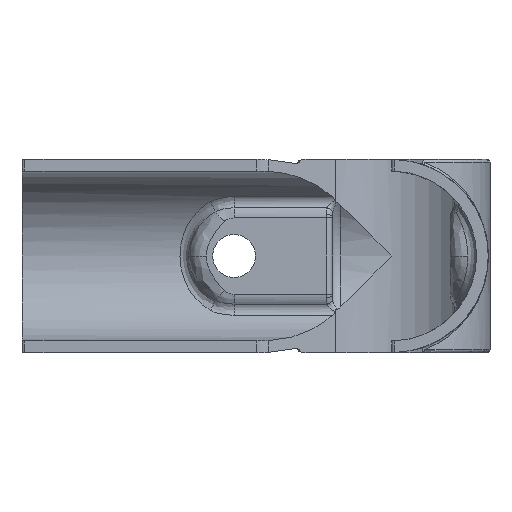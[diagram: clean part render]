
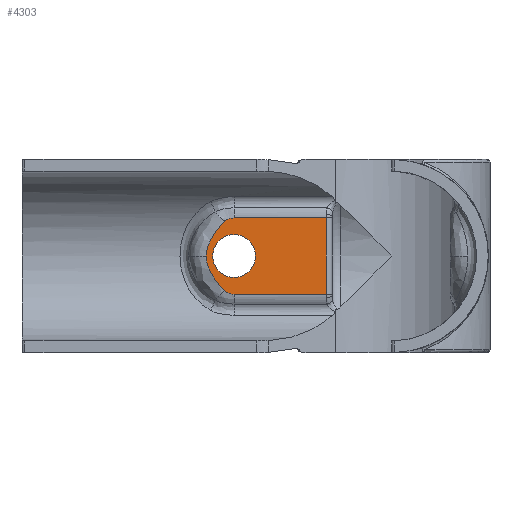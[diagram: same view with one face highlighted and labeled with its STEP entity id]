
A CAD part, front view. The second image highlights one B-rep face of the part: STEP entity #4303.
In plain terms, the highlighted planar face has unit normal (0, -1, 0).
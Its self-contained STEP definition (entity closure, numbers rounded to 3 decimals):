
#52 = LINE ( 'NONE', #3856, #2515 ) ;
#112 = EDGE_LOOP ( 'NONE', ( #4121, #5140 ) ) ;
#114 = CARTESIAN_POINT ( 'NONE',  ( -30.966, 10., 13.757 ) ) ;
#356 = DIRECTION ( 'NONE',  ( 1., 0., 0. ) ) ;
#415 = EDGE_CURVE ( 'NONE', #3989, #980, #4751, .T. ) ;
#418 = EDGE_LOOP ( 'NONE', ( #4894, #3606, #6146, #5375, #6086, #656, #4976 ) ) ;
#515 = CARTESIAN_POINT ( 'NONE',  ( -31.322, 10., 18.448 ) ) ;
#543 = CARTESIAN_POINT ( 'NONE',  ( -27.559, 10., 22.967 ) ) ;
#656 = ORIENTED_EDGE ( 'NONE', *, *, #3222, .T. ) ;
#694 = EDGE_CURVE ( 'NONE', #1400, #2501, #3590, .T. ) ;
#881 = CARTESIAN_POINT ( 'NONE',  ( -28.336, 10., 22.668 ) ) ;
#883 = CARTESIAN_POINT ( 'NONE',  ( -29.043, 10., 22.037 ) ) ;
#980 = VERTEX_POINT ( 'NONE', #3733 ) ;
#1105 = B_SPLINE_CURVE_WITH_KNOTS ( 'NONE', 3,
 ( #3831, #3356, #543, #1543, #4819, #881, #4317, #1397, #4977, #1878 ),
 .UNSPECIFIED., .F., .F.,
 ( 4, 2, 2, 2, 4 ),
 ( 0., 0.001, 0.001, 0.002, 0.002 ),
 .UNSPECIFIED. ) ;
#1124 = CARTESIAN_POINT ( 'NONE',  ( -31.7, 10., 16.5 ) ) ;
#1206 = CARTESIAN_POINT ( 'NONE',  ( -28.64, 10., 10.558 ) ) ;
#1256 = CARTESIAN_POINT ( 'NONE',  ( -26.95, 10., 16.5 ) ) ;
#1318 = CARTESIAN_POINT ( 'NONE',  ( -28.133, 10., 10.225 ) ) ;
#1356 = EDGE_CURVE ( 'NONE', #980, #3989, #6141, .T. ) ;
#1397 = CARTESIAN_POINT ( 'NONE',  ( -28.526, 10., 22.544 ) ) ;
#1400 = VERTEX_POINT ( 'NONE', #3773 ) ;
#1541 = CARTESIAN_POINT ( 'NONE',  ( -30.416, 10., 20.217 ) ) ;
#1543 = CARTESIAN_POINT ( 'NONE',  ( -27.992, 10., 22.832 ) ) ;
#1554 = FACE_BOUND ( 'NONE', #112, .T. ) ;
#1580 = VERTEX_POINT ( 'NONE', #5020 ) ;
#1626 = CARTESIAN_POINT ( 'NONE',  ( -30.833, 10., 13.505 ) ) ;
#1632 = DIRECTION ( 'NONE',  ( 0., 1., 0. ) ) ;
#1650 = CARTESIAN_POINT ( 'NONE',  ( -30.091, 10., 12.302 ) ) ;
#1746 = VERTEX_POINT ( 'NONE', #3237 ) ;
#1878 = CARTESIAN_POINT ( 'NONE',  ( -28.64, 10., 22.442 ) ) ;
#2037 = CARTESIAN_POINT ( 'NONE',  ( -31.7, 10., 16.5 ) ) ;
#2040 = EDGE_CURVE ( 'NONE', #4111, #4888, #2395, .T. ) ;
#2055 = CARTESIAN_POINT ( 'NONE',  ( -26.95, 10., 16.5 ) ) ;
#2078 = CARTESIAN_POINT ( 'NONE',  ( -28.843, 10., 10.761 ) ) ;
#2136 = EDGE_CURVE ( 'NONE', #3814, #1580, #5337, .T. ) ;
#2166 = CARTESIAN_POINT ( 'NONE',  ( -28.64, 10., 10.558 ) ) ;
#2221 = CARTESIAN_POINT ( 'NONE',  ( -26.95, 10., 9.989 ) ) ;
#2292 = VECTOR ( 'NONE', #6376, 1000. ) ;
#2337 = DIRECTION ( 'NONE',  ( 0., -1., 0. ) ) ;
#2391 = VECTOR ( 'NONE', #4207, 1000. ) ;
#2395 = B_SPLINE_CURVE_WITH_KNOTS ( 'NONE', 3,
 ( #5736, #5222, #3689, #4679, #6213, #1318, #2740, #6176, #4724, #3225, #3248, #3751 ),
 .UNSPECIFIED., .F., .F.,
 ( 4, 2, 2, 2, 2, 4 ),
 ( 0., 0., 0., 0.001, 0.001, 0.002 ),
 .UNSPECIFIED. ) ;
#2501 = VERTEX_POINT ( 'NONE', #4608 ) ;
#2515 = VECTOR ( 'NONE', #356, 1000. ) ;
#2740 = CARTESIAN_POINT ( 'NONE',  ( -27.993, 10., 10.168 ) ) ;
#2954 = EDGE_CURVE ( 'NONE', #4888, #1746, #52, .T. ) ;
#3006 = CARTESIAN_POINT ( 'NONE',  ( -29.409, 10., 21.599 ) ) ;
#3063 = CARTESIAN_POINT ( 'NONE',  ( -31.673, 10., 15.922 ) ) ;
#3084 = CARTESIAN_POINT ( 'NONE',  ( -28.64, 10., 22.442 ) ) ;
#3133 = CARTESIAN_POINT ( 'NONE',  ( -26.95, 10., 16.5 ) ) ;
#3222 = EDGE_CURVE ( 'NONE', #1580, #4111, #5039, .T. ) ;
#3225 = CARTESIAN_POINT ( 'NONE',  ( -27.254, 10., 10. ) ) ;
#3237 = CARTESIAN_POINT ( 'NONE',  ( -11.2, 10., 9.989 ) ) ;
#3248 = CARTESIAN_POINT ( 'NONE',  ( -27.103, 10., 9.989 ) ) ;
#3297 = CARTESIAN_POINT ( 'NONE',  ( -26.95, 10., 12.85 ) ) ;
#3356 = CARTESIAN_POINT ( 'NONE',  ( -27.256, 10., 23.011 ) ) ;
#3461 = DIRECTION ( 'NONE',  ( 0., 0., -1. ) ) ;
#3464 = FACE_OUTER_BOUND ( 'NONE', #418, .T. ) ;
#3466 = CARTESIAN_POINT ( 'NONE',  ( -31.7, 10., 17.077 ) ) ;
#3565 = CARTESIAN_POINT ( 'NONE',  ( -31.7, 10., 16.211 ) ) ;
#3590 = LINE ( 'NONE', #5388, #2292 ) ;
#3606 = ORIENTED_EDGE ( 'NONE', *, *, #5771, .T. ) ;
#3689 = CARTESIAN_POINT ( 'NONE',  ( -28.526, 10., 10.456 ) ) ;
#3733 = CARTESIAN_POINT ( 'NONE',  ( -26.95, 10., 20.15 ) ) ;
#3751 = CARTESIAN_POINT ( 'NONE',  ( -26.95, 10., 9.989 ) ) ;
#3773 = CARTESIAN_POINT ( 'NONE',  ( -11.2, 10., 23.011 ) ) ;
#3814 = VERTEX_POINT ( 'NONE', #3084 ) ;
#3831 = CARTESIAN_POINT ( 'NONE',  ( -26.95, 10., 23.011 ) ) ;
#3856 = CARTESIAN_POINT ( 'NONE',  ( -26.95, 10., 9.989 ) ) ;
#3980 = CARTESIAN_POINT ( 'NONE',  ( -31.594, 10., 17.634 ) ) ;
#3989 = VERTEX_POINT ( 'NONE', #3297 ) ;
#4111 = VERTEX_POINT ( 'NONE', #1206 ) ;
#4121 = ORIENTED_EDGE ( 'NONE', *, *, #415, .F. ) ;
#4123 = AXIS2_PLACEMENT_3D ( 'NONE', #3133, #1632, #5090 ) ;
#4160 = AXIS2_PLACEMENT_3D ( 'NONE', #1256, #2337, #4746 ) ;
#4207 = DIRECTION ( 'NONE',  ( 0., 0., 1. ) ) ;
#4250 = EDGE_CURVE ( 'NONE', #2501, #3814, #1105, .T. ) ;
#4278 = AXIS2_PLACEMENT_3D ( 'NONE', #2055, #5990, #3461 ) ;
#4303 = ADVANCED_FACE ( 'NONE', ( #3464, #1554 ), #6083, .F. ) ;
#4317 = CARTESIAN_POINT ( 'NONE',  ( -28.401, 10., 22.63 ) ) ;
#4387 = CARTESIAN_POINT ( 'NONE',  ( -30.973, 10., 19.23 ) ) ;
#4406 = CARTESIAN_POINT ( 'NONE',  ( -30.098, 10., 20.688 ) ) ;
#4539 = CARTESIAN_POINT ( 'NONE',  ( -31.318, 10., 14.543 ) ) ;
#4562 = CARTESIAN_POINT ( 'NONE',  ( -31.209, 10., 14.276 ) ) ;
#4580 = CARTESIAN_POINT ( 'NONE',  ( -31.573, 10., 15.359 ) ) ;
#4608 = CARTESIAN_POINT ( 'NONE',  ( -26.95, 10., 23.011 ) ) ;
#4679 = CARTESIAN_POINT ( 'NONE',  ( -28.399, 10., 10.369 ) ) ;
#4724 = CARTESIAN_POINT ( 'NONE',  ( -27.554, 10., 10.044 ) ) ;
#4746 = DIRECTION ( 'NONE',  ( 0., 0., -1. ) ) ;
#4751 = CIRCLE ( 'NONE', #4278, 3.65 ) ;
#4819 = CARTESIAN_POINT ( 'NONE',  ( -28.135, 10., 22.775 ) ) ;
#4888 = VERTEX_POINT ( 'NONE', #2221 ) ;
#4894 = ORIENTED_EDGE ( 'NONE', *, *, #2954, .T. ) ;
#4976 = ORIENTED_EDGE ( 'NONE', *, *, #2040, .T. ) ;
#4977 = CARTESIAN_POINT ( 'NONE',  ( -28.586, 10., 22.497 ) ) ;
#5020 = CARTESIAN_POINT ( 'NONE',  ( -31.7, 10., 16.5 ) ) ;
#5039 = B_SPLINE_CURVE_WITH_KNOTS ( 'NONE', 3,
 ( #1124, #3565, #3063, #4580, #6038, #4539, #4562, #114, #1626, #5106, #1650, #5561, #5576, #6076, #2078, #2166 ),
 .UNSPECIFIED., .F., .F.,
 ( 4, 2, 2, 2, 2, 2, 2, 4 ),
 ( 0., 0.001, 0.002, 0.003, 0.003, 0.005, 0.006, 0.007 ),
 .UNSPECIFIED. ) ;
#5090 = DIRECTION ( 'NONE',  ( 0., 0., 1. ) ) ;
#5106 = CARTESIAN_POINT ( 'NONE',  ( -30.408, 10., 12.769 ) ) ;
#5140 = ORIENTED_EDGE ( 'NONE', *, *, #1356, .F. ) ;
#5222 = CARTESIAN_POINT ( 'NONE',  ( -28.586, 10., 10.503 ) ) ;
#5232 = CARTESIAN_POINT ( 'NONE',  ( -11.2, 10., 16.5 ) ) ;
#5337 = B_SPLINE_CURVE_WITH_KNOTS ( 'NONE', 3,
 ( #6289, #883, #3006, #4406, #1541, #5945, #4387, #5424, #515, #3980, #3466, #2037 ),
 .UNSPECIFIED., .F., .F.,
 ( 4, 2, 2, 2, 2, 4 ),
 ( 0., 0.002, 0.003, 0.004, 0.005, 0.007 ),
 .UNSPECIFIED. ) ;
#5375 = ORIENTED_EDGE ( 'NONE', *, *, #4250, .T. ) ;
#5388 = CARTESIAN_POINT ( 'NONE',  ( -26.95, 10., 23.011 ) ) ;
#5424 = CARTESIAN_POINT ( 'NONE',  ( -31.213, 10., 18.714 ) ) ;
#5561 = CARTESIAN_POINT ( 'NONE',  ( -29.579, 10., 11.625 ) ) ;
#5576 = CARTESIAN_POINT ( 'NONE',  ( -29.402, 10., 11.404 ) ) ;
#5736 = CARTESIAN_POINT ( 'NONE',  ( -28.64, 10., 10.558 ) ) ;
#5771 = EDGE_CURVE ( 'NONE', #1746, #1400, #6166, .T. ) ;
#5945 = CARTESIAN_POINT ( 'NONE',  ( -30.841, 10., 19.48 ) ) ;
#5990 = DIRECTION ( 'NONE',  ( 0., -1., 0. ) ) ;
#6038 = CARTESIAN_POINT ( 'NONE',  ( -31.5, 10., 15.083 ) ) ;
#6076 = CARTESIAN_POINT ( 'NONE',  ( -29.034, 10., 10.972 ) ) ;
#6083 = PLANE ( 'NONE',  #4123 ) ;
#6086 = ORIENTED_EDGE ( 'NONE', *, *, #2136, .T. ) ;
#6141 = CIRCLE ( 'NONE', #4160, 3.65 ) ;
#6146 = ORIENTED_EDGE ( 'NONE', *, *, #694, .T. ) ;
#6166 = LINE ( 'NONE', #5232, #2391 ) ;
#6176 = CARTESIAN_POINT ( 'NONE',  ( -27.703, 10., 10.077 ) ) ;
#6213 = CARTESIAN_POINT ( 'NONE',  ( -28.334, 10., 10.33 ) ) ;
#6289 = CARTESIAN_POINT ( 'NONE',  ( -28.64, 10., 22.442 ) ) ;
#6376 = DIRECTION ( 'NONE',  ( -1., 0., 0. ) ) ;
